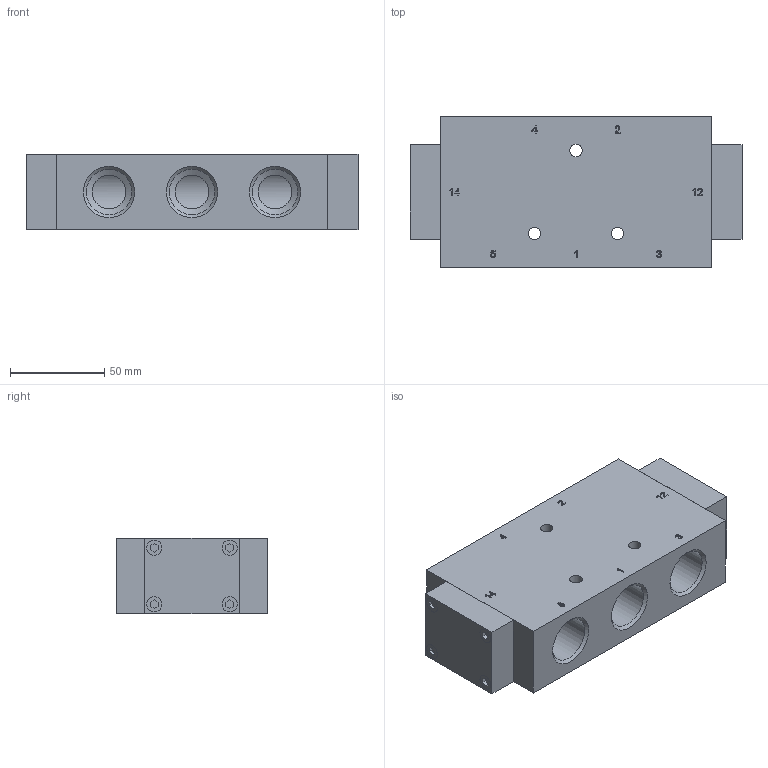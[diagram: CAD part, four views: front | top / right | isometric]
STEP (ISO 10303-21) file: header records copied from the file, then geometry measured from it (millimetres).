
FILE_DESCRIPTION( ( 'Unknown' ), '1' );
FILE_NAME( 'Q:/Solid Edge ST4/STEP/P 531 181.stp', 'Unknown', ( 'Unknown' ), ( 'Unknown' ), 'PSStep 17.0.49', 'Unknown', ' ' );
FILE_SCHEMA( ( 'AUTOMOTIVE_DESIGN { 1 0 10303 214 1 1 1 1 }' ) );
Length unit declared in the file: millimetre
Products named in the file (4): Assem1
Assembly tree (3 placements, depth 2):
  Assem1
    (unnamed)
    (unnamed)
    (unnamed)
Bounding box: 176 x 80 x 40 mm (x, y, z)
Surface area: 77039 mm2 (no closed solid volume)
Topology: 0 solids, 339 shells, 339 faces, 1614 edges, 1534 vertices
Faces by surface type: plane 228, cylinder 49, extrusion 32, cone 30
Full cylindrical faces by diameter (mm): 4.134 x16, 6.6 x3, 8 x8, 8.566 x4, 18 x5, 24.117 x10, 28 x1
Entity records: 18493 total; most frequent: CARTESIAN_POINT 6497, DIRECTION 2194, VERTEX_POINT 1496, ORIENTED_EDGE 1488, EDGE_CURVE 1488, VECTOR 1192, LINE 1160, AXIS2_PLACEMENT_3D 501
